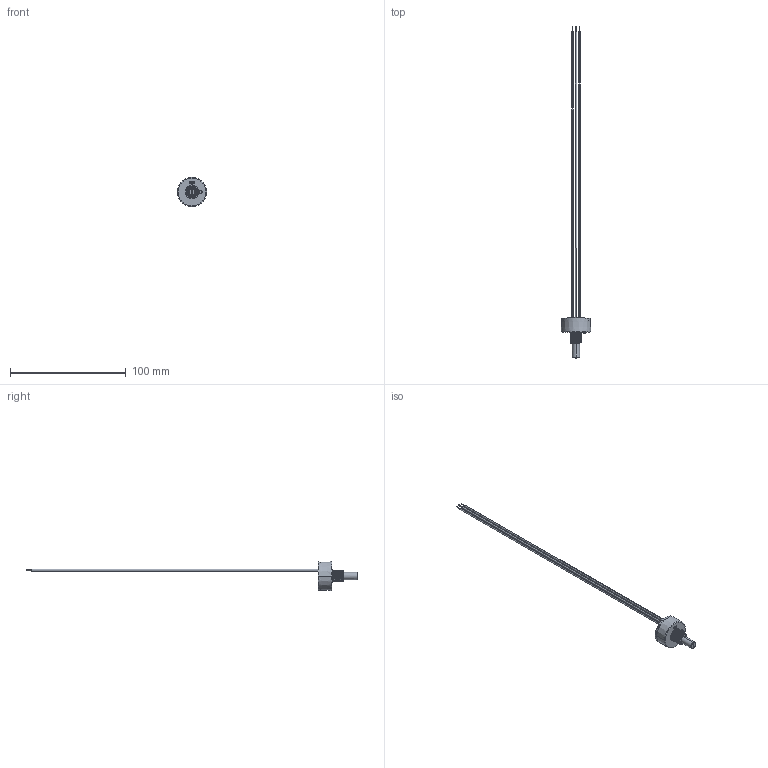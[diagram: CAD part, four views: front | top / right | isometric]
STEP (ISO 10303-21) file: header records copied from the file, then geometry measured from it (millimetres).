
FILE_DESCRIPTION (( 'STEP AP214' ), '1' );
FILE_NAME ('286CC3DAAAA1.STEP', '2022-12-01T05:21:37', ( '' ), ( '' ), 'SwSTEP 2.0', 'SolidWorks 2021', '' );
FILE_SCHEMA (( 'AUTOMOTIVE_DESIGN' ));
Length unit declared in the file: millimetre
Products named in the file (13): 468-82-T38_468-82-T38-R; 286-24-002; 286-04-001_REV B; Epoxy Sealing_10 trun dual output; 285-48-002_0; 468-82-T38_468-82-T38-W; 286CC3DAAAA1; 286-36-001_REV A; 286-02-001-01_REV C; 286-02-001_REV A; 286-57-001; 468-82-T38_468-82-T38-G; 286-41-003
Assembly tree (12 placements, depth 3):
  286CC3DAAAA1
    286-02-001_REV A
      286-02-001-01_REV C
      286-04-001_REV B
    286-24-002
    285-48-002_0
    Epoxy Sealing_10 trun dual output
    286-36-001_REV A
    286-57-001
    286-41-003
    468-82-T38_468-82-T38-R
    468-82-T38_468-82-T38-W
    468-82-T38_468-82-T38-G
Bounding box: 25.2 x 287.35 x 25.2 mm (x, y, z)
Volume: 8943.2 mm3; surface area: 11057.6 mm2
Topology: 11 solids, 11 shells, 404 faces, 991 edges, 638 vertices
Faces by surface type: cylinder 209, plane 129, cone 37, torus 26, bspline 3
Entity records: 16066 total; most frequent: CARTESIAN_POINT 5740, DIRECTION 2178, ORIENTED_EDGE 1982, EDGE_CURVE 991, AXIS2_PLACEMENT_3D 861, VERTEX_POINT 638, EDGE_LOOP 457, VECTOR 456
